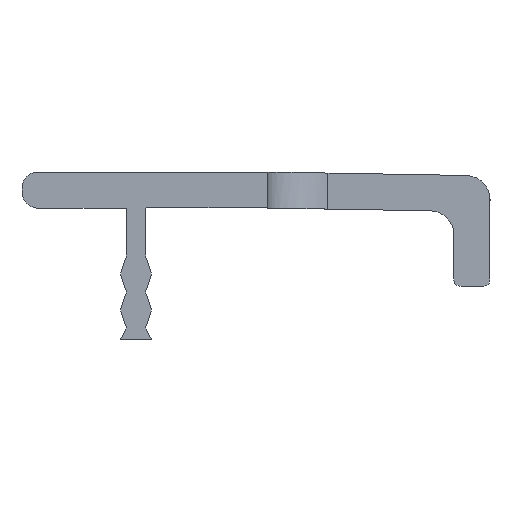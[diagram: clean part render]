
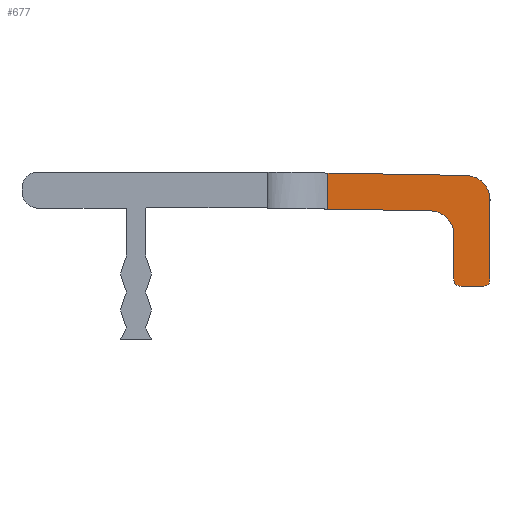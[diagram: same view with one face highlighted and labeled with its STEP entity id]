
A CAD part, left-side view. The second image highlights one B-rep face of the part: STEP entity #677.
In plain terms, the highlighted planar face has unit normal (-1, 0, 0).
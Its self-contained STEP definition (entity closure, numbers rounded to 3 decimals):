
#263 = EDGE_CURVE( '', #473, #521, #735, .T. );
#295 = VERTEX_POINT( '', #771 );
#405 = EDGE_CURVE( '', #295, #613, #888, .T. );
#409 = VERTEX_POINT( '', #892 );
#411 = EDGE_CURVE( '', #643, #523, #894, .T. );
#447 = EDGE_CURVE( '', #671, #409, #933, .T. );
#473 = VERTEX_POINT( '', #961 );
#479 = EDGE_CURVE( '', #613, #671, #968, .T. );
#501 = VERTEX_POINT( '', #991 );
#521 = VERTEX_POINT( '', #1012 );
#523 = VERTEX_POINT( '', #1014 );
#537 = EDGE_CURVE( '', #521, #501, #1030, .T. );
#541 = EDGE_CURVE( '', #595, #295, #1034, .T. );
#595 = VERTEX_POINT( '', #1093 );
#613 = VERTEX_POINT( '', #1111 );
#621 = EDGE_CURVE( '', #409, #643, #1119, .T. );
#643 = VERTEX_POINT( '', #1145 );
#649 = EDGE_CURVE( '', #501, #595, #1152, .T. );
#655 = EDGE_CURVE( '', #473, #523, #1159, .T. );
#671 = VERTEX_POINT( '', #1178 );
#677 = ADVANCED_FACE( '', ( #1184 ), #1185, .F. );
#735 = LINE( '', #1243, #1244 );
#771 = CARTESIAN_POINT( '', ( -547.5, -29., -6.5 ) );
#888 = LINE( '', #1469, #1470 );
#892 = CARTESIAN_POINT( '', ( -547.5, -26.5, -2.236 ) );
#894 = LINE( '', #1478, #1479 );
#933 = LINE( '', #1533, #1534 );
#961 = CARTESIAN_POINT( '', ( -547.5, -16., 2.913 ) );
#968 = CIRCLE( '', #1582, 0.5 );
#991 = CARTESIAN_POINT( '', ( -547.5, -29.5, 0.712 ) );
#1012 = CARTESIAN_POINT( '', ( -547.5, -27.535, 2.711 ) );
#1014 = CARTESIAN_POINT( '', ( -547.5, -16., -0.088 ) );
#1030 = CIRCLE( '', #1665, 2. );
#1034 = CIRCLE( '', #1671, 0.5 );
#1093 = CARTESIAN_POINT( '', ( -547.5, -29.5, -6. ) );
#1111 = CARTESIAN_POINT( '', ( -547.5, -27., -6.5 ) );
#1119 = CIRCLE( '', #1787, 2. );
#1145 = CARTESIAN_POINT( '', ( -547.5, -24.535, -0.237 ) );
#1152 = LINE( '', #1830, #1831 );
#1159 = LINE( '', #1839, #1840 );
#1178 = CARTESIAN_POINT( '', ( -547.5, -26.5, -6. ) );
#1184 = FACE_OUTER_BOUND( '', #1873, .T. );
#1185 = PLANE( '', #1874 );
#1243 = CARTESIAN_POINT( '', ( -547.5, -20.186, 2.84 ) );
#1244 = VECTOR( '', #1940, 1. );
#1469 = CARTESIAN_POINT( '', ( -547.5, -29.25, -6.5 ) );
#1470 = VECTOR( '', #2106, 1. );
#1478 = CARTESIAN_POINT( '', ( -547.5, -26.927, -0.278 ) );
#1479 = VECTOR( '', #2110, 1. );
#1533 = CARTESIAN_POINT( '', ( -547.5, -26.5, 2. ) );
#1534 = VECTOR( '', #2142, 1. );
#1582 = AXIS2_PLACEMENT_3D( '', #2186, #2187, #2188 );
#1665 = AXIS2_PLACEMENT_3D( '', #2235, #2236, #2237 );
#1671 = AXIS2_PLACEMENT_3D( '', #2241, #2242, #2243 );
#1787 = AXIS2_PLACEMENT_3D( '', #2309, #2310, #2311 );
#1830 = CARTESIAN_POINT( '', ( -547.5, -29.5, 5.356 ) );
#1831 = VECTOR( '', #2359, 1. );
#1839 = CARTESIAN_POINT( '', ( -547.5, -16., 10. ) );
#1840 = VECTOR( '', #2368, 1. );
#1873 = EDGE_LOOP( '', ( #2398, #2399, #2400, #2401, #2402, #2403, #2404, #2405, #2406, #2407 ) );
#1874 = AXIS2_PLACEMENT_3D( '', #2408, #2409, #2410 );
#1940 = DIRECTION( '', ( 0., -1., -0.017 ) );
#2106 = DIRECTION( '', ( 0., 1., 0. ) );
#2110 = DIRECTION( '', ( 0., 1., 0.017 ) );
#2142 = DIRECTION( '', ( 0., 0., 1. ) );
#2186 = CARTESIAN_POINT( '', ( -547.5, -27., -6. ) );
#2187 = DIRECTION( '', ( 1., 0., 0. ) );
#2188 = DIRECTION( '', ( 0., 0., -1. ) );
#2235 = CARTESIAN_POINT( '', ( -547.5, -27.5, 0.712 ) );
#2236 = DIRECTION( '', ( 1., 0., 0. ) );
#2237 = DIRECTION( '', ( 0., -0.017, 1. ) );
#2241 = CARTESIAN_POINT( '', ( -547.5, -29., -6. ) );
#2242 = DIRECTION( '', ( 1., 0., 0. ) );
#2243 = DIRECTION( '', ( 0., -1., 0. ) );
#2309 = CARTESIAN_POINT( '', ( -547.5, -24.5, -2.236 ) );
#2310 = DIRECTION( '', ( -1., 0., 0. ) );
#2311 = DIRECTION( '', ( 0., -1., 0. ) );
#2359 = DIRECTION( '', ( 0., 0., -1. ) );
#2368 = DIRECTION( '', ( 0., 0., -1. ) );
#2398 = ORIENTED_EDGE( '', *, *, #263, .F. );
#2399 = ORIENTED_EDGE( '', *, *, #655, .T. );
#2400 = ORIENTED_EDGE( '', *, *, #411, .F. );
#2401 = ORIENTED_EDGE( '', *, *, #621, .F. );
#2402 = ORIENTED_EDGE( '', *, *, #447, .F. );
#2403 = ORIENTED_EDGE( '', *, *, #479, .F. );
#2404 = ORIENTED_EDGE( '', *, *, #405, .F. );
#2405 = ORIENTED_EDGE( '', *, *, #541, .F. );
#2406 = ORIENTED_EDGE( '', *, *, #649, .F. );
#2407 = ORIENTED_EDGE( '', *, *, #537, .F. );
#2408 = CARTESIAN_POINT( '', ( -547.5, -29.5, 10. ) );
#2409 = DIRECTION( '', ( 1., 0., 0. ) );
#2410 = DIRECTION( '', ( 0., -1., 0. ) );
